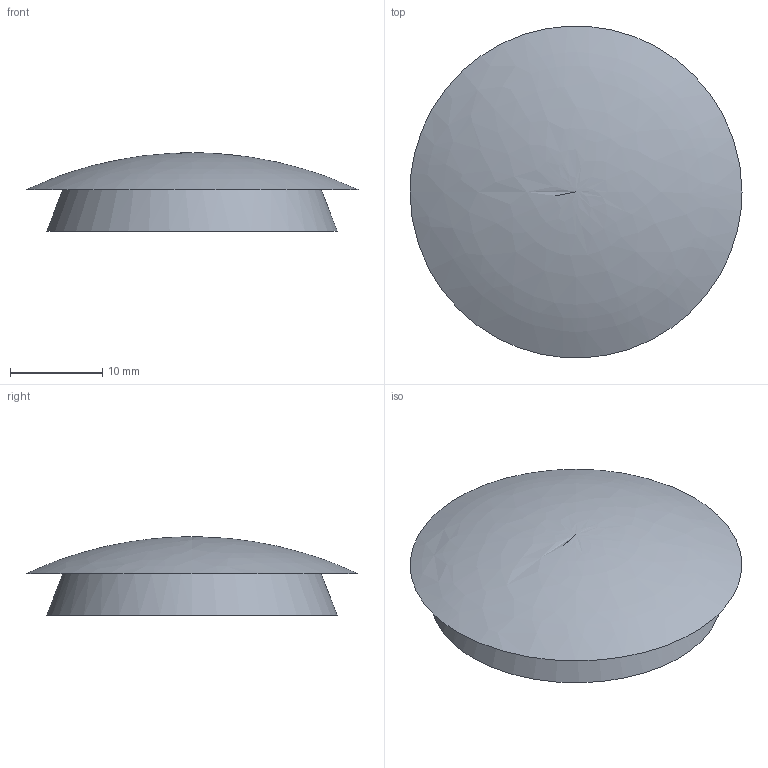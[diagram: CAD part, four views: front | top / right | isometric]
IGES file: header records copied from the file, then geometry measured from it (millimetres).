
Global section: file name: DR_PR3-28; native system: Autodesk Inventor 2015; preprocessor: unknown; author: CH.J; date: 20170922.115005; units: millimetre
Bounding box: 36 x 35.95 x 8.5 mm (x, y, z)
Volume: 3549.9 mm3; surface area: 3024 mm2
Topology: 1 solids, 1 shells, 6 faces, 12 edges, 9 vertices
Faces by surface type: bspline 6
